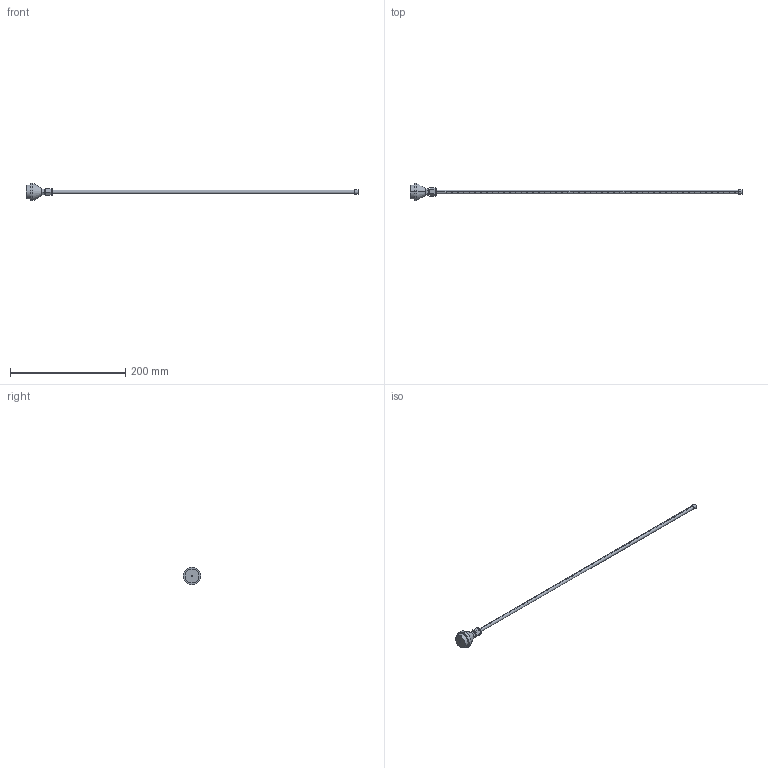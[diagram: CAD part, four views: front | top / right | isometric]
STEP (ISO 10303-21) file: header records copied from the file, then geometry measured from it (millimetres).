
FILE_DESCRIPTION (( 'STEP AP203' ), '1' );
FILE_NAME ('ER-AB50.STEP', '2005-09-05T00:35:53', ( '' ), ( '' ), 'SwSTEP 2.0', 'SolidWorks 2004073', '' );
FILE_SCHEMA (( 'CONFIG_CONTROL_DESIGN' ));
Length unit declared in the file: millimetre
Products named in the file (1): ER-AB50
Bounding box: 575 x 30 x 30 mm (x, y, z)
Volume: 25103.9 mm3; surface area: 19396.7 mm2
Topology: 1 solids, 1 shells, 145 faces, 500 edges, 262 vertices
Faces by surface type: cylinder 116, plane 27, cone 2
Entity records: 7255 total; most frequent: CARTESIAN_POINT 3254, ORIENTED_EDGE 1000, DIRECTION 622, EDGE_CURVE 500, VERTEX_POINT 262, LINE 262, VECTOR 262, B_SPLINE_CURVE_WITH_KNOTS 204
